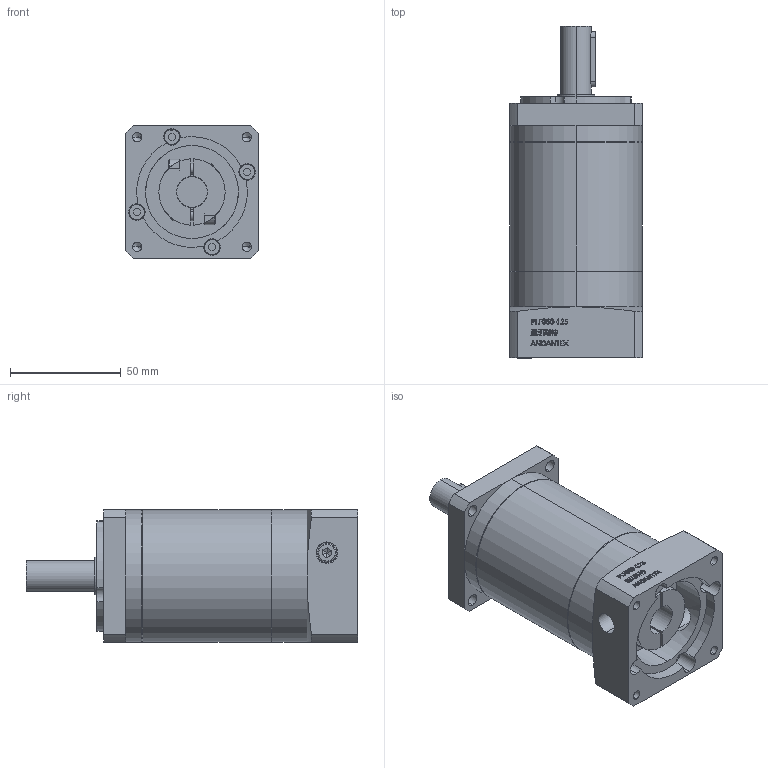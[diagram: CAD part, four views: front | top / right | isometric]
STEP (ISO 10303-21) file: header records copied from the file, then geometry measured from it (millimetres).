
FILE_DESCRIPTION (( 'STEP AP203' ), '1' );
FILE_NAME ('PLF060-L3 14-50-70-M5.STEP', '2022-12-26T07:53:59', ( 'Windows User' ), ( 'P R C' ), 'SwSTEP 2.0', 'SolidWorks 2016', '' );
FILE_SCHEMA (( 'CONFIG_CONTROL_DESIGN' ));
Length unit declared in the file: millimetre
Products named in the file (8): 內六角螺絲M4_16L; PLF060-L3 14-50-70-M5; PLF060-CQ01_L3; PLF060-LJ 14-50-70-M5; す瑩5-5-25; GB894．1-86轴用弹性挡圈A型17; 內六角螺絲M5_M5x15L
Assembly tree (10 placements, depth 2):
  PLF060-L3 14-50-70-M5
    PLF060-CQ01_L3
    PLF060-LJ 14-50-70-M5
    す瑩5-5-25
    GB894．1-86轴用弹性挡圈A型17
    內六角螺絲M5_M5x15L  x2
    內六角螺絲M4_16L  x3
    內六角螺絲M4_16L
Bounding box: 60 x 150 x 60 mm (x, y, z)
Volume: 325741.6 mm3; surface area: 52500.5 mm2
Topology: 10 solids, 10 shells, 890 faces, 2324 edges, 1527 vertices
Faces by surface type: plane 542, cylinder 160, bspline 148, cone 40
Entity records: 31880 total; most frequent: CARTESIAN_POINT 11073, ORIENTED_EDGE 4340, DIRECTION 3674, EDGE_CURVE 2170, LINE 1458, VECTOR 1458, VERTEX_POINT 1436, AXIS2_PLACEMENT_3D 1108
